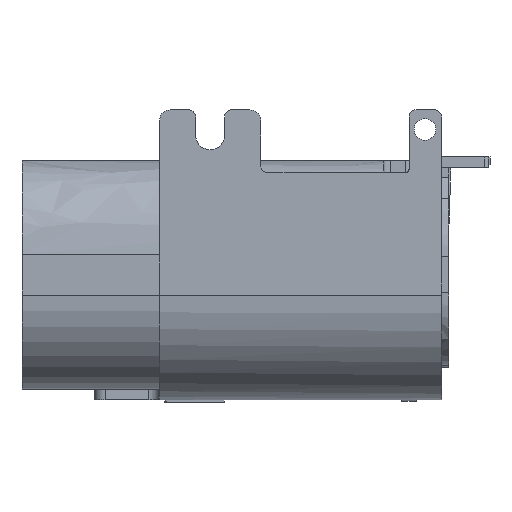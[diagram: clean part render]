
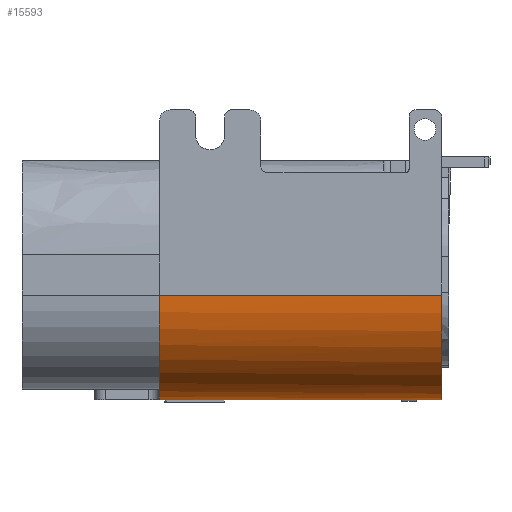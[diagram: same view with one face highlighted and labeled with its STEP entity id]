
A CAD part, front view. The second image highlights one B-rep face of the part: STEP entity #15593.
In plain terms, the highlighted free-form (B-spline) face has degree [1, 3] with [2, 4] control points.
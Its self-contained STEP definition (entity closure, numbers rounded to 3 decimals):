
#117 = CARTESIAN_POINT ( 'NONE',  ( -1.804, -3.291, -1.653 ) ) ;
#405 = CARTESIAN_POINT ( 'NONE',  ( -1.8, -4.67, -0.205 ) ) ;
#571 = B_SPLINE_CURVE_WITH_KNOTS ( 'NONE', 3,
 ( #25499, #14948, #25864, #26245, #5864, #117, #20318, #14754, #863, #34742 ),
 .UNSPECIFIED., .F., .F.,
 ( 4, 3, 3, 4 ),
 ( 0., 0., 0., 0. ),
 .UNSPECIFIED. ) ;
#863 = CARTESIAN_POINT ( 'NONE',  ( -1.8, -3.322, -1.651 ) ) ;
#3018 = CARTESIAN_POINT ( 'NONE',  ( 2.1, -4.67, -0.205 ) ) ;
#4693 = CARTESIAN_POINT ( 'NONE',  ( 2.1, -4.67, -0.205 ) ) ;
#4707 = CARTESIAN_POINT ( 'NONE',  ( -1.872, -4.67, -1.054 ) ) ;
#5059 = CARTESIAN_POINT ( 'NONE',  ( -1.872, -4.67, -0.205 ) ) ;
#5864 = CARTESIAN_POINT ( 'NONE',  ( -1.81, -3.275, -1.654 ) ) ;
#6150 = VERTEX_POINT ( 'NONE', #3018 ) ;
#7312 = CARTESIAN_POINT ( 'NONE',  ( 2.1, -4.67, -0.205 ) ) ;
#7473 = LINE ( 'NONE', #4693, #36097 ) ;
#8273 = ORIENTED_EDGE ( 'NONE', *, *, #34619, .F. ) ;
#9430 = AXIS2_PLACEMENT_3D ( 'NONE', #13225, #21559, #27659 ) ;
#10012 = ORIENTED_EDGE ( 'NONE', *, *, #33905, .F. ) ;
#10470 = CIRCLE ( 'NONE', #28813, 1.45 ) ;
#10552 = EDGE_CURVE ( 'NONE', #24826, #33767, #30132, .T. ) ;
#11487 = ORIENTED_EDGE ( 'NONE', *, *, #10552, .T. ) ;
#11975 = DIRECTION ( 'NONE',  ( -1., 0., 0. ) ) ;
#13225 = CARTESIAN_POINT ( 'NONE',  ( -1.8, -3.22, -0.205 ) ) ;
#13745 = LINE ( 'NONE', #25036, #23353 ) ;
#14754 = CARTESIAN_POINT ( 'NONE',  ( -1.801, -3.315, -1.652 ) ) ;
#14948 = CARTESIAN_POINT ( 'NONE',  ( -1.836, -3.231, -1.655 ) ) ;
#15272 = DIRECTION ( 'NONE',  ( -1., 0., 0. ) ) ;
#15593 = ADVANCED_FACE ( 'NONE', ( #21387 ), #35750, .F. ) ;
#16185 = CARTESIAN_POINT ( 'NONE',  ( -1.872, -3.22, -1.655 ) ) ;
#16355 = CARTESIAN_POINT ( 'NONE',  ( 2.1, -3.22, -1.655 ) ) ;
#20318 = CARTESIAN_POINT ( 'NONE',  ( -1.802, -3.307, -1.652 ) ) ;
#21387 = FACE_OUTER_BOUND ( 'NONE', #30484, .T. ) ;
#21559 = DIRECTION ( 'NONE',  ( 1., 0., 0. ) ) ;
#21895 = DIRECTION ( 'NONE',  ( -1., 0., 0. ) ) ;
#22959 = EDGE_CURVE ( 'NONE', #32431, #6150, #10470, .T. ) ;
#23353 = VECTOR ( 'NONE', #21895, 1000. ) ;
#23453 = CARTESIAN_POINT ( 'NONE',  ( 2.1, -3.22, -0.205 ) ) ;
#23763 = CARTESIAN_POINT ( 'NONE',  ( 2.1, -3.22, -1.655 ) ) ;
#24123 = ORIENTED_EDGE ( 'NONE', *, *, #30876, .T. ) ;
#24323 = CARTESIAN_POINT ( 'NONE',  ( -1.848, -3.22, -1.655 ) ) ;
#24377 = ORIENTED_EDGE ( 'NONE', *, *, #22959, .T. ) ;
#24826 = VERTEX_POINT ( 'NONE', #405 ) ;
#25036 = CARTESIAN_POINT ( 'NONE',  ( 2.1, -3.22, -1.655 ) ) ;
#25499 = CARTESIAN_POINT ( 'NONE',  ( -1.848, -3.22, -1.655 ) ) ;
#25864 = CARTESIAN_POINT ( 'NONE',  ( -1.825, -3.245, -1.655 ) ) ;
#26245 = CARTESIAN_POINT ( 'NONE',  ( -1.817, -3.26, -1.654 ) ) ;
#27659 = DIRECTION ( 'NONE',  ( 0., -1., 0. ) ) ;
#28094 = CARTESIAN_POINT ( 'NONE',  ( -1.8, -3.33, -1.651 ) ) ;
#28813 = AXIS2_PLACEMENT_3D ( 'NONE', #23453, #11975, #34736 ) ;
#30132 = CIRCLE ( 'NONE', #9430, 1.45 ) ;
#30484 = EDGE_LOOP ( 'NONE', ( #8273, #24377, #24123, #11487, #10012 ) ) ;
#30876 = EDGE_CURVE ( 'NONE', #6150, #24826, #7473, .T. ) ;
#32431 = VERTEX_POINT ( 'NONE', #23763 ) ;
#33397 = CARTESIAN_POINT ( 'NONE',  ( 2.1, -4.069, -1.655 ) ) ;
#33767 = VERTEX_POINT ( 'NONE', #28094 ) ;
#33905 = EDGE_CURVE ( 'NONE', #35558, #33767, #571, .T. ) ;
#34619 = EDGE_CURVE ( 'NONE', #32431, #35558, #13745, .T. ) ;
#34736 = DIRECTION ( 'NONE',  ( 0., 0., -1. ) ) ;
#34742 = CARTESIAN_POINT ( 'NONE',  ( -1.8, -3.33, -1.651 ) ) ;
#35558 = VERTEX_POINT ( 'NONE', #24323 ) ;
#35632 = CARTESIAN_POINT ( 'NONE',  ( -1.872, -4.069, -1.655 ) ) ;
#35750 =( BOUNDED_SURFACE ( )  B_SPLINE_SURFACE ( 1, 3, ( 
 ( #16355, #33397, #35805, #7312 ),
 ( #16185, #35632, #4707, #5059 ) ),
 .UNSPECIFIED., .F., .F., .F. ) 
 B_SPLINE_SURFACE_WITH_KNOTS ( ( 2, 2 ),
 ( 4, 4 ),
 ( 0.019, 0.987 ),
 ( 0., 1. ),
 .UNSPECIFIED. ) 
 GEOMETRIC_REPRESENTATION_ITEM ( )  RATIONAL_B_SPLINE_SURFACE ( (
 ( 1., 0.805, 0.805, 1.),
 ( 1., 0.805, 0.805, 1.) ) ) 
 REPRESENTATION_ITEM ( '' )  SURFACE ( )  );
#35805 = CARTESIAN_POINT ( 'NONE',  ( 2.1, -4.67, -1.054 ) ) ;
#36097 = VECTOR ( 'NONE', #15272, 1000. ) ;
